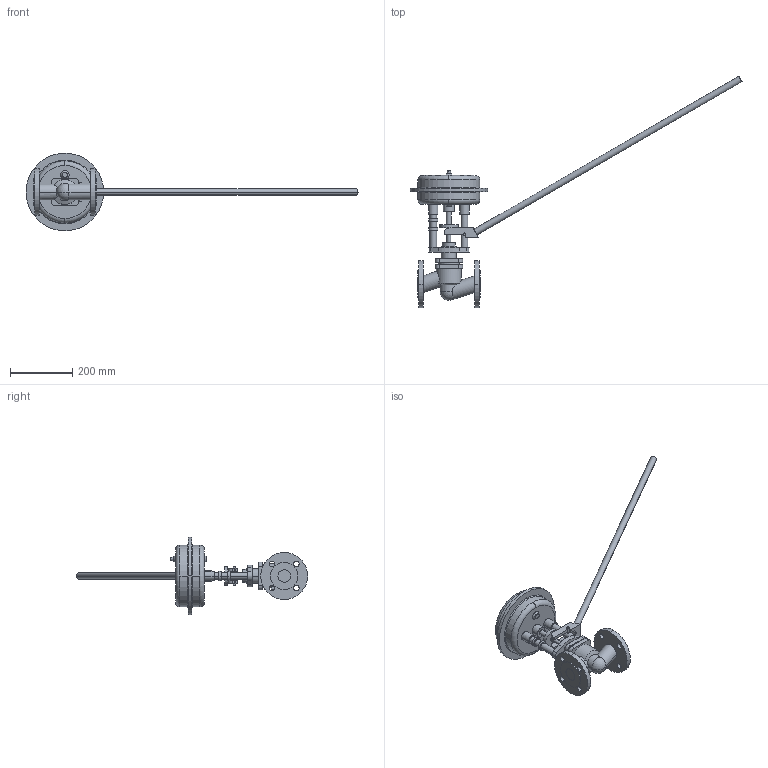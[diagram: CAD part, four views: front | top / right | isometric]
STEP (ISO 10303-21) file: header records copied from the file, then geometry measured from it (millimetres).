
FILE_DESCRIPTION(('OneSpaceDesigner STEP Export'),'2;1');
FILE_NAME('c000003570.stp','2009-11-30T 9:52:04',(''),(''),'OneSpace Designer STEP processor for AP214 (Solid Model)','OneSpace Modeling 15.50B 03-Nov-2007 (C) CoCreate Software GmbH','');
FILE_SCHEMA(('AUTOMOTIVE_DESIGN { 1 0 10303 214 1 1 1 1 }'));
Length unit declared in the file: millimetre
Products named in the file (1): 1
Bounding box: 1063.38 x 740.67 x 249 mm (x, y, z)
Volume: 5039385.6 mm3; surface area: 431042.9 mm2
Topology: 1 solids, 1 shells, 225 faces, 556 edges, 365 vertices
Faces by surface type: cylinder 110, plane 99, torus 8, cone 6, sphere 2
Entity records: 8099 total; most frequent: CARTESIAN_POINT 1386, ORIENTED_EDGE 1108, DIRECTION 903, EDGE_CURVE 554, VERTEX_POINT 365, AXIS2_PLACEMENT_3D 325, EDGE_LOOP 281, VECTOR 253
